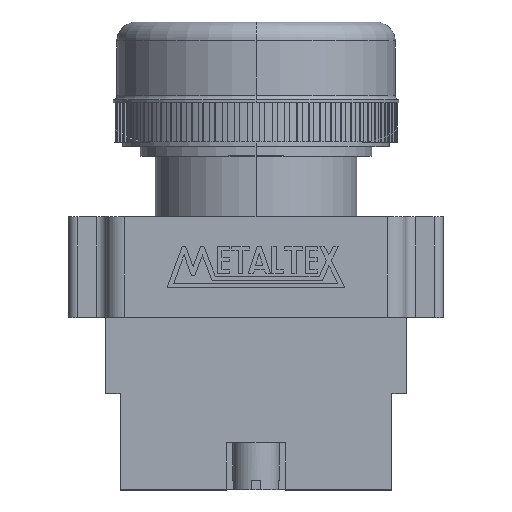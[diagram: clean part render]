
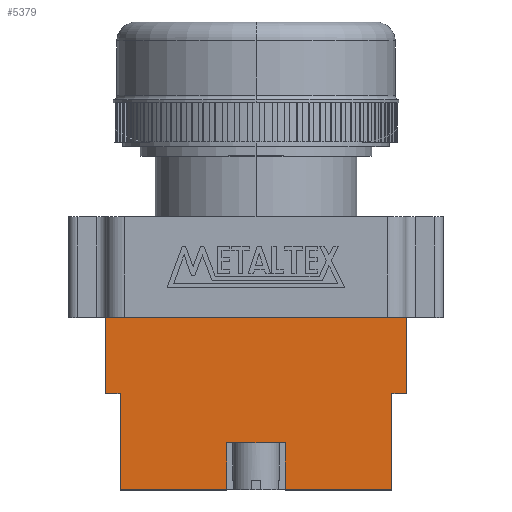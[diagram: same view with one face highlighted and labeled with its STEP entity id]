
A CAD part, top view. The second image highlights one B-rep face of the part: STEP entity #5379.
In plain terms, the highlighted planar face has unit normal (0, 0, 1).
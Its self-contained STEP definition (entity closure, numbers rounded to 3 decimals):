
#1758 = EDGE_CURVE ( 'NONE', #19365, #19366, #8457, .T. ) ;
#1772 = EDGE_CURVE ( 'NONE', #19356, #19365, #8499, .T. ) ;
#1776 = EDGE_CURVE ( 'NONE', #19352, #19353, #8511, .T. ) ;
#1820 = EDGE_CURVE ( 'NONE', #19330, #19331, #10110, .T. ) ;
#1859 = EDGE_CURVE ( 'NONE', #19306, #19305, #10227, .T. ) ;
#1866 = EDGE_CURVE ( 'NONE', #19301, #19352, #10248, .T. ) ;
#1911 = EDGE_CURVE ( 'NONE', #19356, #19306, #10383, .T. ) ;
#1912 = EDGE_CURVE ( 'NONE', #19366, #19268, #10386, .T. ) ;
#1913 = EDGE_CURVE ( 'NONE', #19268, #19330, #10389, .T. ) ;
#1914 = EDGE_CURVE ( 'NONE', #19267, #19331, #10392, .T. ) ;
#1915 = EDGE_CURVE ( 'NONE', #19267, #19301, #10395, .T. ) ;
#1916 = EDGE_CURVE ( 'NONE', #19353, #19305, #10398, .T. ) ;
#3449 = ORIENTED_EDGE ( 'NONE', *, *, #1772, .T. ) ;
#3450 = ORIENTED_EDGE ( 'NONE', *, *, #1859, .F. ) ;
#3451 = ORIENTED_EDGE ( 'NONE', *, *, #1911, .F. ) ;
#3452 = ORIENTED_EDGE ( 'NONE', *, *, #1912, .T. ) ;
#3453 = ORIENTED_EDGE ( 'NONE', *, *, #1758, .T. ) ;
#3454 = ORIENTED_EDGE ( 'NONE', *, *, #1820, .T. ) ;
#3455 = ORIENTED_EDGE ( 'NONE', *, *, #1913, .T. ) ;
#3456 = ORIENTED_EDGE ( 'NONE', *, *, #1914, .F. ) ;
#3457 = ORIENTED_EDGE ( 'NONE', *, *, #1866, .T. ) ;
#3458 = ORIENTED_EDGE ( 'NONE', *, *, #1915, .T. ) ;
#3459 = ORIENTED_EDGE ( 'NONE', *, *, #1916, .T. ) ;
#3460 = ORIENTED_EDGE ( 'NONE', *, *, #1776, .T. ) ;
#5379 = ADVANCED_FACE ( 'NONE', ( #8959 ), #11774, .T. ) ;
#5940 = VECTOR ( 'NONE', #8459, 1000. ) ;
#8457 = LINE ( 'NONE', #8458, #5940 ) ;
#8458 = CARTESIAN_POINT ( 'NONE',  ( 14.5, 0., 15.075 ) ) ;
#8459 = DIRECTION ( 'NONE',  ( 0., 1., 0. ) ) ;
#8499 = LINE ( 'NONE', #8500, #8610 ) ;
#8500 = CARTESIAN_POINT ( 'NONE',  ( -14.5, 0., 15.075 ) ) ;
#8501 = DIRECTION ( 'NONE',  ( 1., 0., 0. ) ) ;
#8511 = LINE ( 'NONE', #8512, #8616 ) ;
#8512 = CARTESIAN_POINT ( 'NONE',  ( -14.5, 0., 15.075 ) ) ;
#8513 = DIRECTION ( 'NONE',  ( 1., 0., 0. ) ) ;
#8610 = VECTOR ( 'NONE', #8501, 1000. ) ;
#8616 = VECTOR ( 'NONE', #8513, 1000. ) ;
#8659 = VECTOR ( 'NONE', #10112, 1000. ) ;
#8699 = VECTOR ( 'NONE', #10229, 1000. ) ;
#8705 = VECTOR ( 'NONE', #10250, 1000. ) ;
#8750 = VECTOR ( 'NONE', #10385, 1000. ) ;
#8751 = VECTOR ( 'NONE', #10388, 1000. ) ;
#8752 = VECTOR ( 'NONE', #10391, 1000. ) ;
#8754 = VECTOR ( 'NONE', #10394, 1000. ) ;
#8755 = VECTOR ( 'NONE', #10397, 1000. ) ;
#8756 = VECTOR ( 'NONE', #10400, 1000. ) ;
#8959 = FACE_OUTER_BOUND ( 'NONE', #19902, .T. ) ;
#8964 = AXIS2_PLACEMENT_3D ( 'NONE', #11775, #11776, #11777 ) ;
#10110 = LINE ( 'NONE', #10111, #8659 ) ;
#10111 = CARTESIAN_POINT ( 'NONE',  ( 14.5, 18.4, 15.075 ) ) ;
#10112 = DIRECTION ( 'NONE',  ( -1., 0., 0. ) ) ;
#10227 = LINE ( 'NONE', #10228, #8699 ) ;
#10228 = CARTESIAN_POINT ( 'NONE',  ( 0., 5., 15.075 ) ) ;
#10229 = DIRECTION ( 'NONE',  ( -1., 0., 0. ) ) ;
#10248 = LINE ( 'NONE', #10249, #8705 ) ;
#10249 = CARTESIAN_POINT ( 'NONE',  ( -14.5, 18.4, 15.075 ) ) ;
#10250 = DIRECTION ( 'NONE',  ( 0., -1., 0. ) ) ;
#10383 = LINE ( 'NONE', #10384, #8750 ) ;
#10384 = CARTESIAN_POINT ( 'NONE',  ( 3.1, 0., 15.075 ) ) ;
#10385 = DIRECTION ( 'NONE',  ( 0., 1., 0. ) ) ;
#10386 = LINE ( 'NONE', #10387, #8751 ) ;
#10387 = CARTESIAN_POINT ( 'NONE',  ( 14.5, 10.25, 15.075 ) ) ;
#10388 = DIRECTION ( 'NONE',  ( 1., 0., 0. ) ) ;
#10389 = LINE ( 'NONE', #10390, #8752 ) ;
#10390 = CARTESIAN_POINT ( 'NONE',  ( 16.075, 10.25, 15.075 ) ) ;
#10391 = DIRECTION ( 'NONE',  ( 0., 1., 0. ) ) ;
#10392 = LINE ( 'NONE', #10393, #8754 ) ;
#10393 = CARTESIAN_POINT ( 'NONE',  ( -16.075, 10.25, 15.075 ) ) ;
#10394 = DIRECTION ( 'NONE',  ( 0., 1., 0. ) ) ;
#10395 = LINE ( 'NONE', #10396, #8755 ) ;
#10396 = CARTESIAN_POINT ( 'NONE',  ( -14.5, 10.25, 15.075 ) ) ;
#10397 = DIRECTION ( 'NONE',  ( 1., 0., 0. ) ) ;
#10398 = LINE ( 'NONE', #10399, #8756 ) ;
#10399 = CARTESIAN_POINT ( 'NONE',  ( -3.1, 0., 15.075 ) ) ;
#10400 = DIRECTION ( 'NONE',  ( 0., 1., 0. ) ) ;
#11774 = PLANE ( 'NONE',  #8964 ) ;
#11775 = CARTESIAN_POINT ( 'NONE',  ( 0., 0., 15.075 ) ) ;
#11776 = DIRECTION ( 'NONE',  ( 0., 0., 1. ) ) ;
#11777 = DIRECTION ( 'NONE',  ( 1., 0., 0. ) ) ;
#17656 = CARTESIAN_POINT ( 'NONE',  ( -16.075, 10.25, 15.075 ) ) ;
#17657 = CARTESIAN_POINT ( 'NONE',  ( 16.075, 10.25, 15.075 ) ) ;
#17690 = CARTESIAN_POINT ( 'NONE',  ( -14.5, 10.25, 15.075 ) ) ;
#17694 = CARTESIAN_POINT ( 'NONE',  ( -3.1, 5., 15.075 ) ) ;
#17695 = CARTESIAN_POINT ( 'NONE',  ( 3.1, 5., 15.075 ) ) ;
#17719 = CARTESIAN_POINT ( 'NONE',  ( 16.075, 18.4, 15.075 ) ) ;
#17720 = CARTESIAN_POINT ( 'NONE',  ( -16.075, 18.4, 15.075 ) ) ;
#17741 = CARTESIAN_POINT ( 'NONE',  ( -14.5, 0., 15.075 ) ) ;
#17742 = CARTESIAN_POINT ( 'NONE',  ( -3.1, 0., 15.075 ) ) ;
#17745 = CARTESIAN_POINT ( 'NONE',  ( 3.1, 0., 15.075 ) ) ;
#17754 = CARTESIAN_POINT ( 'NONE',  ( 14.5, 0., 15.075 ) ) ;
#17755 = CARTESIAN_POINT ( 'NONE',  ( 14.5, 10.25, 15.075 ) ) ;
#19267 = VERTEX_POINT ( 'NONE', #17656 ) ;
#19268 = VERTEX_POINT ( 'NONE', #17657 ) ;
#19301 = VERTEX_POINT ( 'NONE', #17690 ) ;
#19305 = VERTEX_POINT ( 'NONE', #17694 ) ;
#19306 = VERTEX_POINT ( 'NONE', #17695 ) ;
#19330 = VERTEX_POINT ( 'NONE', #17719 ) ;
#19331 = VERTEX_POINT ( 'NONE', #17720 ) ;
#19352 = VERTEX_POINT ( 'NONE', #17741 ) ;
#19353 = VERTEX_POINT ( 'NONE', #17742 ) ;
#19356 = VERTEX_POINT ( 'NONE', #17745 ) ;
#19365 = VERTEX_POINT ( 'NONE', #17754 ) ;
#19366 = VERTEX_POINT ( 'NONE', #17755 ) ;
#19902 = EDGE_LOOP ( 'NONE', ( #3450, #3451, #3449, #3453, #3452, #3455, #3454, #3456, #3458, #3457, #3460, #3459 ) ) ;
